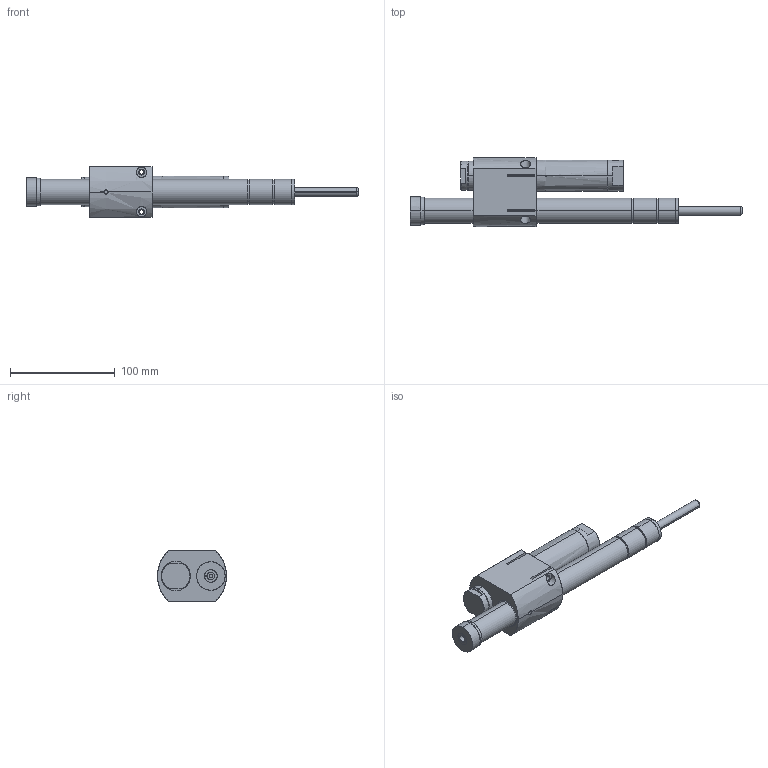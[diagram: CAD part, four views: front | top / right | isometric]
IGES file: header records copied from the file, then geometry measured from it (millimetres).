
Start section: SolidWorks IGES file using analytic representation for surfaces
Global section: file name: D:\IGS跡宒\HRT60.IGS,1; native system: 5HSolidWorks 2013; preprocessor: SolidWorks 2013; author: Administrator; date: 160406.154101; units: inch
Bounding box: 317.5 x 66 x 48 mm (x, y, z)
Surface area: 60767 mm2 (no closed solid volume)
Topology: 0 solids, 0 shells, 157 faces, 3112 edges, 3110 vertices
Faces by surface type: revolution 106, bspline 51
